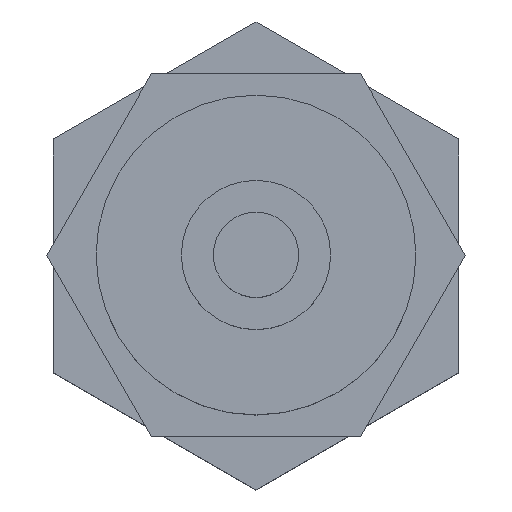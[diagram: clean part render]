
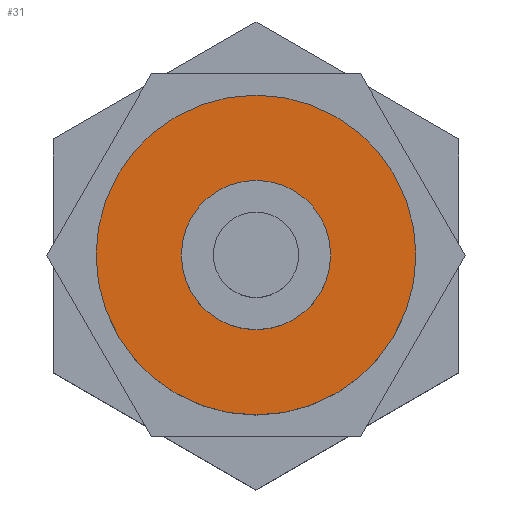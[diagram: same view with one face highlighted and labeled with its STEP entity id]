
A CAD part, top view. The second image highlights one B-rep face of the part: STEP entity #31.
In plain terms, the highlighted planar face has unit normal (0, 0, 1).
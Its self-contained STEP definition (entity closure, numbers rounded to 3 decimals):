
#31 = ADVANCED_FACE ( 'NONE', ( #307, #272 ), #750, .T. ) ;
#60 = DIRECTION ( 'NONE',  ( 1., 0., 0. ) ) ;
#64 = EDGE_CURVE ( 'NONE', #846, #721, #232, .T. ) ;
#86 = EDGE_CURVE ( 'NONE', #721, #846, #693, .T. ) ;
#119 = ORIENTED_EDGE ( 'NONE', *, *, #86, .F. ) ;
#133 = ORIENTED_EDGE ( 'NONE', *, *, #512, .T. ) ;
#163 = AXIS2_PLACEMENT_3D ( 'NONE', #897, #732, #733 ) ;
#174 = CIRCLE ( 'NONE', #573, 7.5 ) ;
#191 = DIRECTION ( 'NONE',  ( 0., 0., 1. ) ) ;
#232 = CIRCLE ( 'NONE', #542, 3.5 ) ;
#272 = FACE_OUTER_BOUND ( 'NONE', #321, .T. ) ;
#286 = CARTESIAN_POINT ( 'NONE',  ( 0., 0., 39.9 ) ) ;
#294 = ORIENTED_EDGE ( 'NONE', *, *, #849, .T. ) ;
#307 = FACE_BOUND ( 'NONE', #773, .T. ) ;
#321 = EDGE_LOOP ( 'NONE', ( #133, #294 ) ) ;
#339 = DIRECTION ( 'NONE',  ( 1., 0., 0. ) ) ;
#374 = DIRECTION ( 'NONE',  ( 1., 0., 0. ) ) ;
#390 = VERTEX_POINT ( 'NONE', #418 ) ;
#405 = CARTESIAN_POINT ( 'NONE',  ( 0., 0., 39.9 ) ) ;
#418 = CARTESIAN_POINT ( 'NONE',  ( 7.5, 0., 39.9 ) ) ;
#431 = DIRECTION ( 'NONE',  ( 1., 0., 0. ) ) ;
#449 = DIRECTION ( 'NONE',  ( 0., 0., 1. ) ) ;
#470 = CIRCLE ( 'NONE', #536, 7.5 ) ;
#503 = CARTESIAN_POINT ( 'NONE',  ( 3.5, 0., 39.9 ) ) ;
#512 = EDGE_CURVE ( 'NONE', #947, #390, #470, .T. ) ;
#519 = CARTESIAN_POINT ( 'NONE',  ( 0., 0., 39.9 ) ) ;
#536 = AXIS2_PLACEMENT_3D ( 'NONE', #649, #807, #60 ) ;
#542 = AXIS2_PLACEMENT_3D ( 'NONE', #519, #449, #431 ) ;
#573 = AXIS2_PLACEMENT_3D ( 'NONE', #405, #191, #339 ) ;
#587 = CARTESIAN_POINT ( 'NONE',  ( -3.5, 0., 39.9 ) ) ;
#613 = AXIS2_PLACEMENT_3D ( 'NONE', #286, #809, #374 ) ;
#621 = CARTESIAN_POINT ( 'NONE',  ( -7.5, 0., 39.9 ) ) ;
#649 = CARTESIAN_POINT ( 'NONE',  ( 0., 0., 39.9 ) ) ;
#693 = CIRCLE ( 'NONE', #613, 3.5 ) ;
#721 = VERTEX_POINT ( 'NONE', #587 ) ;
#732 = DIRECTION ( 'NONE',  ( 0., 0., 1. ) ) ;
#733 = DIRECTION ( 'NONE',  ( 1., 0., 0. ) ) ;
#750 = PLANE ( 'NONE',  #163 ) ;
#773 = EDGE_LOOP ( 'NONE', ( #119, #840 ) ) ;
#807 = DIRECTION ( 'NONE',  ( 0., 0., 1. ) ) ;
#809 = DIRECTION ( 'NONE',  ( 0., 0., 1. ) ) ;
#840 = ORIENTED_EDGE ( 'NONE', *, *, #64, .F. ) ;
#846 = VERTEX_POINT ( 'NONE', #503 ) ;
#849 = EDGE_CURVE ( 'NONE', #390, #947, #174, .T. ) ;
#897 = CARTESIAN_POINT ( 'NONE',  ( 0., 0., 39.9 ) ) ;
#947 = VERTEX_POINT ( 'NONE', #621 ) ;
